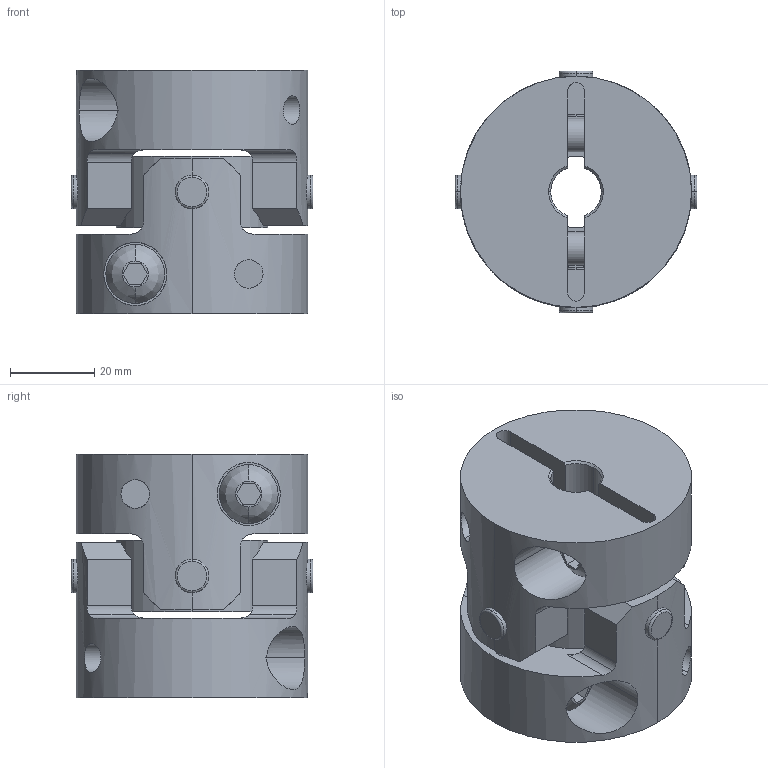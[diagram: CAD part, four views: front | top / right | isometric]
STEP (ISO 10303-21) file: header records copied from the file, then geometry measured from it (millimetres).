
FILE_DESCRIPTION((''),'2;1');
FILE_NAME('UA-55C-12×17.stp','2013-05-22T12:02:50',(''),(''),'AutoCAD STEP 2000i','AutoCAD 2000i',', , ');
FILE_SCHEMA(('CONFIG_CONTROL_DESIGN'));
Length unit declared in the file: millimetre
Products named in the file (6): UA-55C-10×10; 忣兜1; UA-5502-D10-1; BTN-M8; UA-5502-D10; UA55-SEN
Assembly tree (6 placements, depth 3):
  UA-55C-10×10
    忣兜1
    UA-5502-D10-1
      BTN-M8
    UA-5502-D10
      BTN-M8
    UA55-SEN
Bounding box: 57.55 x 57.55 x 58 mm (x, y, z)
Volume: 99086.1 mm3; surface area: 31793.4 mm2
Topology: 1 solids, 1 shells, 206 faces, 554 edges, 364 vertices
Faces by surface type: cylinder 96, plane 78, cone 16, bspline 8, torus 8
Entity records: 8383 total; most frequent: CARTESIAN_POINT 3067, ORIENTED_EDGE 1108, DIRECTION 1064, EDGE_CURVE 554, AXIS2_PLACEMENT_3D 409, VERTEX_POINT 364, VECTOR 246, LINE 246
